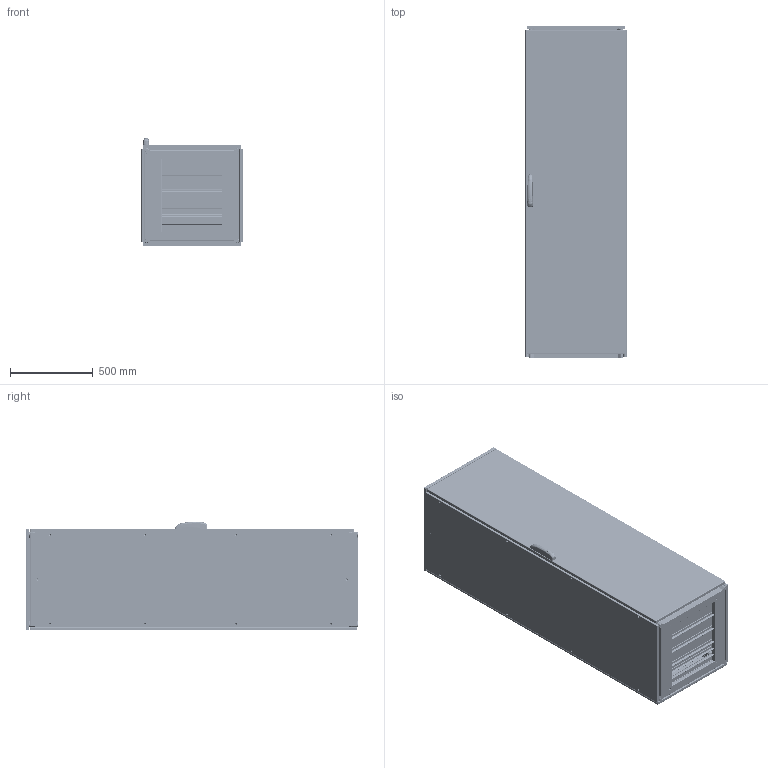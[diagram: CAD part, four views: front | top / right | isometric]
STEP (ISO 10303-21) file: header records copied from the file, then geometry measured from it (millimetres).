
FILE_DESCRIPTION (( 'STEP AP203' ), '1' );
FILE_NAME ('ENUX-062006PRX.STEP', '2021-03-16T10:57:15', ( '' ), ( '' ), 'SwSTEP 2.0', 'SolidWorks 2019', '' );
FILE_SCHEMA (( 'CONFIG_CONTROL_DESIGN' ));
Length unit declared in the file: millimetre
Products named in the file (11): ENUX-062006PRX; AR_ENUX_Inox_Fianco_0600x2000_SX; AR_ENUX_Inox_Tetto_0600x0600; AR_ENUX_Inox_Fianco_0600x2000_DX; AR_ENUX_Inox_Retro_singolo_0600x2000; AR_ENUX_nuova_maniglia_mesan; AR_ENUX_Inox_Tegolino_0600x0050; AR_ENUX_Inox_Struttura_0600x2000x0600; AR_ENUX_Inox_Tegolino_0600x0100; AR_ENUX_Inox_Porta_singola_2.0_0600x2000_ANT; AR_ENUX_Inox_montaggio_porta_singlola_2.0_0600x2000_ANT_DX
Assembly tree (13 placements, depth 3):
  ENUX-062006PRX
    AR_ENUX_Inox_Struttura_0600x2000x0600
    AR_ENUX_Inox_Retro_singolo_0600x2000
    AR_ENUX_Inox_montaggio_porta_singlola_2.0_0600x2000_ANT_DX
      AR_ENUX_Inox_Porta_singola_2.0_0600x2000_ANT
      AR_ENUX_nuova_maniglia_mesan
    AR_ENUX_Inox_Fianco_0600x2000_SX
    AR_ENUX_Inox_Fianco_0600x2000_DX
    AR_ENUX_Inox_Tetto_0600x0600
    AR_ENUX_Inox_Tegolino_0600x0100  x3
    AR_ENUX_Inox_Tegolino_0600x0050  x2
Bounding box: 612 x 2008.5 x 657 mm (x, y, z)
Volume: 11693204.2 mm3; surface area: 17360428.8 mm2
Topology: 12 solids, 12 shells, 8717 faces, 24671 edges, 15876 vertices
Faces by surface type: plane 4685, cylinder 3124, bspline 357, torus 283, cone 200, sphere 68
Entity records: 321594 total; most frequent: CARTESIAN_POINT 89402, ORIENTED_EDGE 48182, DIRECTION 46079, EDGE_CURVE 24091, LINE 16427, VECTOR 16427, VERTEX_POINT 15636, AXIS2_PLACEMENT_3D 14826
